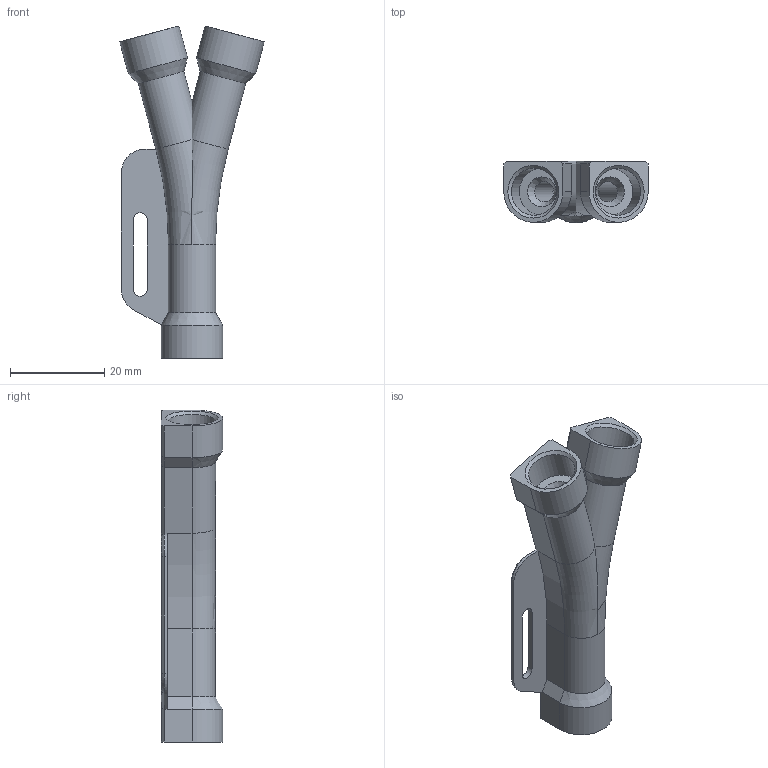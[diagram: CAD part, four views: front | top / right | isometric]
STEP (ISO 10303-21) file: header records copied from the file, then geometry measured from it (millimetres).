
FILE_DESCRIPTION(/* description */ (''),/* implementation_level */ '2;1');
FILE_NAME(/* name */ 'No-Catch Y-Splitter Self-Tap (10mm-M3x6 mount).step',/* time_stamp */ '2023-08-20T22:04:58-05:00',/* author */ (''),/* organization */ (''),/* preprocessor_version */ 'ST-DEVELOPER v20',/* originating_system */ 'Autodesk Translation Framework v12.9.0.99',/* authorisation */ '');
FILE_SCHEMA (('AUTOMOTIVE_DESIGN { 1 0 10303 214 3 1 1 }'));
Length unit declared in the file: millimetre
Products named in the file (1): No-Catch Y-Splitter 230816 Self-Tap Fittings
Bounding box: 30.67 x 13 x 70.49 mm (x, y, z)
Volume: 9150.6 mm3; surface area: 6945.8 mm2
Topology: 2 solids, 2 shells, 98 faces, 226 edges, 135 vertices
Faces by surface type: plane 61, cylinder 21, cone 12, bspline 2, torus 2
Full cylindrical faces by diameter (mm): 2 x1, 3.85 x1, 4.3 x3, 7.4 x1, 10 x3
Entity records: 2916 total; most frequent: CARTESIAN_POINT 608, DIRECTION 477, ORIENTED_EDGE 452, EDGE_CURVE 226, AXIS2_PLACEMENT_3D 160, LINE 157, VECTOR 157, VERTEX_POINT 135
